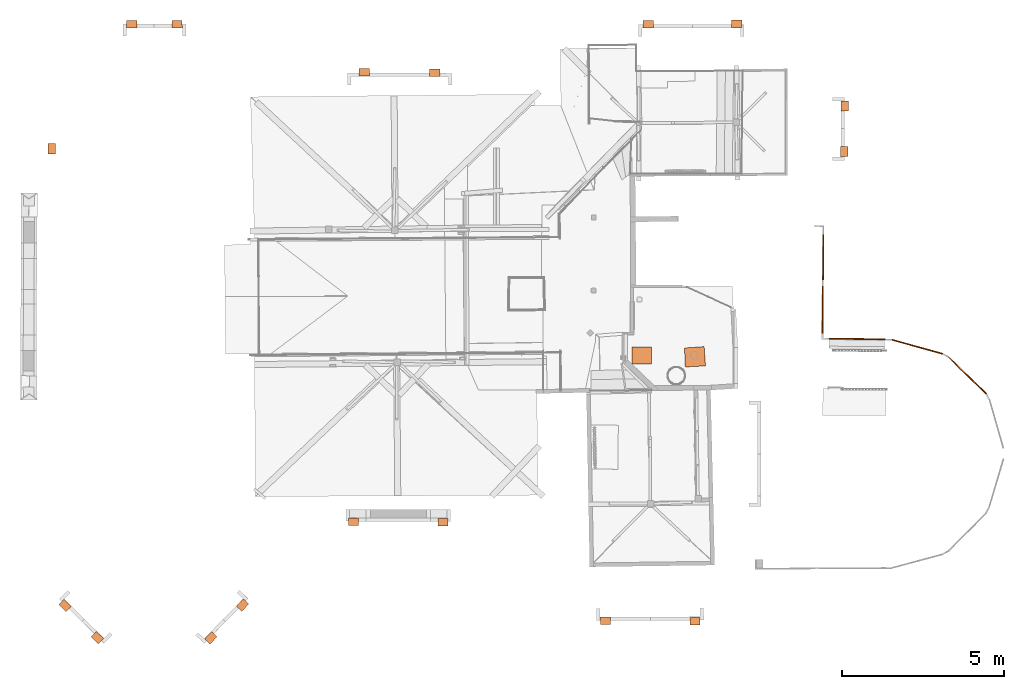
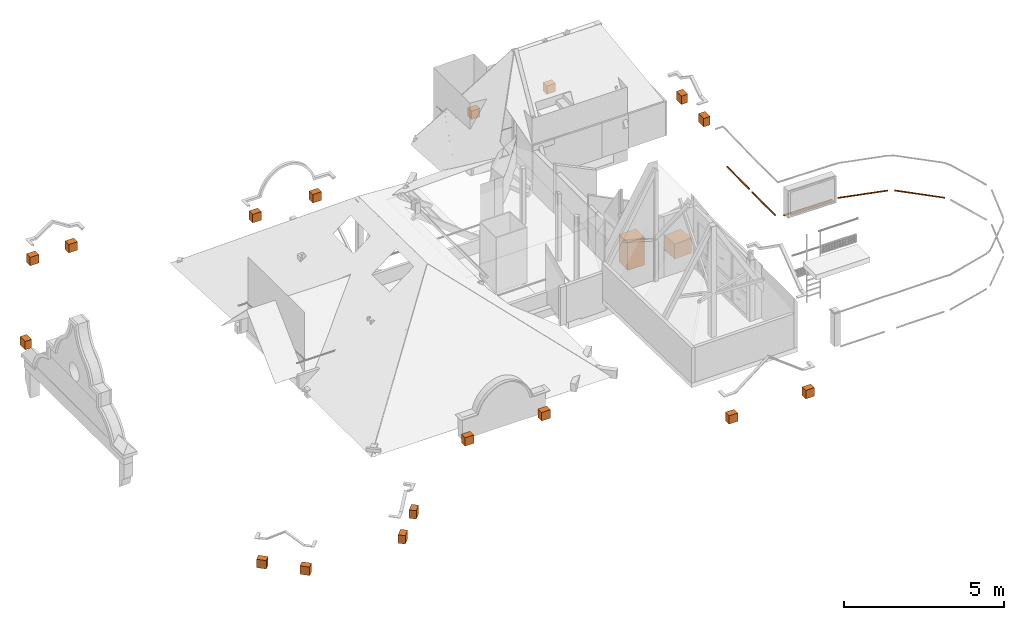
# One storey, part 32 of 39: 24 proxies.
"""IFC2X3 building model written with IfcOpenShell, lengths in centimetres."""

from ifc_helpers import new_model, entity, si_unit, converted_unit, point, direction, frame, frame_2d, origin, origin_with_axes, place, context, subcontext, project, spatial, polyline, circle_curve, trimmed, segment, composite_curve, outline, extrude, faceted_brep, source, transform, mapped, material, type_object, element, save


model = new_model("IFC2X3")

# Units and contexts
model_context = context("Model", 3, precision=0.0001, world=origin(), true_north=direction((0.225632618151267, 0.974212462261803, 0.0)))
body_context = subcontext(model_context, "Body", "Model", "MODEL_VIEW")
ifc_project = project(units=[si_unit("LENGTHUNIT", "METRE", prefix="CENTI"), si_unit("AREAUNIT", "SQUARE_METRE", prefix="CENTI"), si_unit("VOLUMEUNIT", "CUBIC_METRE", prefix="CENTI"), converted_unit("PLANEANGLEUNIT", "DEGREE", entity("IfcRatioMeasure", 0.0174532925), si_unit("PLANEANGLEUNIT", "RADIAN"), dimensions=[0, 0, 0, 0, 0, 0, 0])], contexts=[model_context])

# Site, building, storey
site_placement = place(None, origin_with_axes())
site = spatial("IfcSite", under=ifc_project, at=site_placement, Name="Default Site", CompositionType="ELEMENT")
building_placement = place(site_placement, origin_with_axes())
building = spatial("IfcBuilding", under=site, at=building_placement, Name="Default Building", CompositionType="ELEMENT")
storey_placement = place(building_placement, frame((0.0, 0.0, 1088.91037418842), z_axis=(0.0, 0.0, 1.0), x_axis=(1.0, 0.0, 0.0)))
storey = spatial("IfcBuildingStorey", under=building, at=storey_placement, Name="Mezzanine", CompositionType="ELEMENT", Elevation=1088.91037418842)

# Proxies
ifc_material_1 = material(Name="Aluminium mat")
building_element_proxy_type = type_object("IfcBuildingElementProxyType", Name="Base arrondi", PredefinedType="NOTDEFINED", material=ifc_material_1)
shared_shape = source(origin_with_axes(), body_context, "Body", "SweptSolid", [
    extrude(outline(composite_curve([segment(trimmed(circle_curve(frame_2d((-0.104143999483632, 3.46944695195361e-16), x_axis=(1.0, 0.0)), 1.99994458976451), [point((-0.0164066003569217, -1.99801914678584))], [point((-0.0164066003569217, 1.99801914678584))], True, "CARTESIAN"), True, "CONTINUOUS"), segment(polyline([(-0.0164066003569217, 1.99801914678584), (-1.53215921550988, 1.99801914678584), (-1.53215921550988, -1.99801914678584), (-0.0164066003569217, -1.99801914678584)]), True, "CONTINUOUS")], self_intersect=False)), origin_with_axes(), (0.0, 0.0, 1.0), 100.0),
])
proxy_1_placement = place(storey_placement, frame((1119.13202542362, -195.748695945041, 6.52964296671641), z_axis=(-0.999949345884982, 0.0100650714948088, -1.92592994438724e-34), x_axis=(0.0100650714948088, 0.999949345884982, 1.22464679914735e-16)))
element("IfcBuildingElementProxy", 1, at=proxy_1_placement, inside=storey, type_object=building_element_proxy_type, material=ifc_material_1, Name="Extrusion (solide) 1547946", context=body_context, shape_type="MappedRepresentation", body=[
    mapped(shared_shape, transform((1.53215921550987, 1.99801914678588, 1.77635683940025e-13), x_axis=(1.0, 0.0, -2.35858394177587e-50), y_axis=(0.0, 1.0, 4.27642353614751e-50), z_axis=(2.35858394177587e-50, -1.92592994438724e-34, -1.0), scale=1.0, scale2=1.0, scale3=1.7222477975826, uniform=False)),
])
proxy_2_placement = place(storey_placement, frame((1312.05625130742, -199.189021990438, 3.00001475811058), z_axis=(-0.963843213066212, 0.266469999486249, 0.0), x_axis=(0.266469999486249, 0.963843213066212, 1.22464679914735e-16)))
element("IfcBuildingElementProxy", 2, at=proxy_2_placement, inside=storey, type_object=building_element_proxy_type, material=ifc_material_1, Name="Extrusion (solide) 1547947", context=body_context, shape_type="MappedRepresentation", body=[
    mapped(shared_shape, transform((1.53215921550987, -1.9980191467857, 1.77635683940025e-13), x_axis=(1.0, 2.46519032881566e-32, 7.54746861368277e-49), y_axis=(2.46519032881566e-32, 1.0, -6.16297582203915e-33), z_axis=(-3.45699800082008e-17, 6.16297582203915e-33, -1.0), scale=1.0, scale2=1.0, scale3=1.60576173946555, uniform=False)),
])
proxy_3_placement = place(storey_placement, frame((1484.4555776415, -251.798666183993, 2.99998805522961), z_axis=(-0.717188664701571, 0.696879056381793, 1.23259516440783e-32), x_axis=(0.696879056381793, 0.717188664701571, 1.22464679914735e-16)))
element("IfcBuildingElementProxy", 3, at=proxy_3_placement, inside=storey, type_object=building_element_proxy_type, material=ifc_material_1, Name="Extrusion (solide) 1547949", context=body_context, shape_type="MappedRepresentation", body=[
    mapped(shared_shape, transform((1.53215921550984, -1.9980191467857, 1.77635683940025e-13), x_axis=(1.0, 0.0, 1.50949372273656e-48), y_axis=(0.0, 1.0, 0.0), z_axis=(-1.50949372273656e-48, -2.92043630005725e-33, -1.0), scale=1.0, scale2=1.0, scale3=1.61690122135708, uniform=False)),
])
proxy_4_placement = place(storey_placement, frame((1098.58660513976, 125.773069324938, 1.47581108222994e-05), z_axis=(0.00500904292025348, 0.999987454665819, 0.0), x_axis=(0.999987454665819, -0.00500904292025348, 1.22464679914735e-16)))
element("IfcBuildingElementProxy", 4, at=proxy_4_placement, inside=storey, type_object=building_element_proxy_type, material=ifc_material_1, Name="Extrusion (solide) 1547957", context=body_context, shape_type="MappedRepresentation", body=[
    mapped(shared_shape, transform((1.53215921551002, -1.9980191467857, 0.0), x_axis=(1.0, 0.0, -1.17929197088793e-50), y_axis=(0.0, 1.0, 9.62964972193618e-35), z_axis=(6.2786418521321e-19, 4.31173577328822e-35, -1.0), scale=1.0, scale2=1.0, scale3=1.3814480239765, uniform=False)),
])
proxy_5_placement = place(storey_placement, frame((1096.94652098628, -32.6258915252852, 1.47581102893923e-05), z_axis=(0.00501251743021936, 0.999987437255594, 0.0), x_axis=(0.999987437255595, -0.00501251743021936, 1.22464679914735e-16)))
element("IfcBuildingElementProxy", 5, at=proxy_5_placement, inside=storey, type_object=building_element_proxy_type, material=ifc_material_1, Name="Extrusion (solide) 1547956", context=body_context, shape_type="MappedRepresentation", body=[
    mapped(shared_shape, transform((1.53215921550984, -1.99801914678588, 0.0), x_axis=(1.0, 2.46519032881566e-32, 0.0), y_axis=(2.46519032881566e-32, 1.0, 0.0), z_axis=(-6.01753826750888e-19, 0.0, -1.0), scale=1.0, scale2=1.0, scale3=1.44138965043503, uniform=False)),
])
ifc_material_2 = material(Name="Pierre de sarnico")
proxy_6_placement = place(storey_placement, frame((1154.15772545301, 537.45957814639, -10.9999999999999), z_axis=(0.0, 0.0, 1.0), x_axis=(1.0, 0.0, 0.0)))
element("IfcBuildingElementProxy", 6, at=proxy_6_placement, inside=storey, material=ifc_material_2, Name="Encombrement 1005747", context=body_context, shape_type="Brep", body=[
    faceted_brep([(8.46422238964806e-06, -1.39374052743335e-05, 32.0000185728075), (8.46422238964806e-06, -31.5282484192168, 32.0000185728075), (23.1091583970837, -31.3775201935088, 32.0000185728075), (23.1091583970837, -1.39374052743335e-05, 32.0000185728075), (8.46422238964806e-06, -1.39374052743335e-05, -4.62770460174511e-05), (8.46422238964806e-06, -31.5282484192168, -4.62770460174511e-05), (23.1091583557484, -31.3775138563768, -4.62770460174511e-05), (23.1091583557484, -31.3775138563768, 32.0000185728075), (23.1091583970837, -31.3775201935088, -4.62770460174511e-05), (23.1091583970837, -1.39374052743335e-05, -4.62770460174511e-05)], [[[0, 1, 2, 3]], [[4, 5, 1, 0]], [[5, 6, 7, 1]], [[8, 9, 3, 2]], [[9, 4, 0, 3]], [[9, 8, 5, 4]]]),
])
proxy_7_placement = place(storey_placement, frame((1153.77641941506, 397.39898410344, -10.9999999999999), z_axis=(0.0, 0.0, 1.0), x_axis=(1.0, 0.0, 0.0)))
element("IfcBuildingElementProxy", 7, at=proxy_7_placement, inside=storey, material=ifc_material_2, Name="Encombrement 1005746", context=body_context, shape_type="Brep", body=[
    faceted_brep([(3.55104816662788e-05, -1.15921480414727e-05, 32.0000185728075), (3.55104816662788e-05, -31.5282460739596, 32.0000185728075), (23.1090900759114, -31.3775178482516, 32.0000185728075), (23.1090900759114, -1.15921480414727e-05, 32.0000185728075), (3.55104816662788e-05, -1.15921480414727e-05, -4.62770460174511e-05), (3.55104816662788e-05, -31.5282460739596, -4.62770460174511e-05), (23.1090900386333, -31.3775121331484, -4.62770460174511e-05), (23.1090900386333, -31.3775121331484, 32.0000185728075), (23.1090900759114, -31.3775178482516, -4.62770460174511e-05), (23.1090900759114, -1.15921480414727e-05, -4.62770460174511e-05)], [[[0, 1, 2, 3]], [[4, 5, 1, 0]], [[5, 6, 7, 1]], [[8, 9, 3, 2]], [[9, 4, 0, 3]], [[9, 8, 5, 4]]]),
])
proxy_8_placement = place(storey_placement, frame((-1043.6949642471, 762.424911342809, -10.9999999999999), z_axis=(0.0, 0.0, 1.0), x_axis=(1.0, 0.0, 0.0)))
element("IfcBuildingElementProxy", 8, at=proxy_8_placement, inside=storey, material=ifc_material_2, Name="Encombrement 1005743", context=body_context, shape_type="Brep", body=[
    faceted_brep([(-8.74484715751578e-06, -1.31952260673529e-05, 32.0000185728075), (31.5282734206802, -1.31952260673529e-05, 32.0000185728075), (31.3774975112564, 23.1091367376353, 32.0000185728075), (-8.74484715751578e-06, 23.1091367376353, 32.0000185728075), (-8.74484715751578e-06, -1.31952260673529e-05, -4.62770460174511e-05), (31.5282734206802, -1.31952271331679e-05, -4.62770460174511e-05), (31.5282734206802, -1.31952271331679e-05, 32.0000185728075), (31.5282734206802, -1.31952260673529e-05, -4.62770460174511e-05), (31.3775388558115, 23.1091370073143, -4.62770460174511e-05), (31.3775388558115, 23.1091370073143, 32.0000185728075), (31.3774975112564, 23.1091367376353, -4.62770460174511e-05), (-8.74484715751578e-06, 23.1091367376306, -4.62770460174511e-05), (-8.74484715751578e-06, 23.1091367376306, 32.0000185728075), (-8.74484715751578e-06, 23.1091367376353, -4.62770460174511e-05), (-8.74484680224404e-06, -1.31952260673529e-05, -4.62770460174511e-05), (-8.74484680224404e-06, -1.31952260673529e-05, 32.0000185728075)], [[[0, 1, 2, 3]], [[4, 5, 6, 0]], [[7, 8, 9, 1]], [[10, 11, 12, 2]], [[13, 14, 15, 3]], [[13, 10, 7, 4]]]),
])
proxy_9_placement = place(storey_placement, frame((-781.739321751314, -1095.30805558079, -10.9999999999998), z_axis=(0.0, 0.0, 1.0), x_axis=(1.0, 0.0, 0.0)))
element("IfcBuildingElementProxy", 9, at=proxy_9_placement, inside=storey, material=ifc_material_2, Name="Encombrement 1014000", context=body_context, shape_type="Brep", body=[
    faceted_brep([(-8.54043378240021e-06, 3.78500732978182e-05, 32.0000185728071), (-21.8849267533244, -22.695408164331, 32.0000185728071), (-5.14527221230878, -38.6277773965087, 32.0000185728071), (16.6349802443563, -16.0408595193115, 32.0000185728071), (-8.54043378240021e-06, 3.78500732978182e-05, -4.62770463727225e-05), (-21.8849151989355, -22.6954193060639, -4.62770463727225e-05), (-21.8849151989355, -22.6954193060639, 32.0000185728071), (-21.8849267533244, -22.695408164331, -4.62770463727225e-05), (-5.14529320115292, -38.6277994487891, -4.62770463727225e-05), (-5.14529320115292, -38.6277994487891, 32.0000185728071), (-5.14527221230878, -38.6277773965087, -4.62770463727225e-05), (16.6349757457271, -16.0408551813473, -4.62770463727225e-05), (16.6349757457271, -16.0408551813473, 32.0000185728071), (16.6349802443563, -16.0408595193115, -4.62770463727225e-05), (-1.56334739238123e-05, 3.04943284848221e-05, -4.62770463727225e-05), (-1.56334739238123e-05, 3.04943284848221e-05, 32.0000185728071)], [[[0, 1, 2, 3]], [[4, 5, 6, 0]], [[7, 8, 9, 1]], [[10, 11, 12, 2]], [[13, 14, 15, 3]], [[13, 10, 7, 4]]]),
])
proxy_10_placement = place(storey_placement, frame((-1114.55714171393, -1116.60968171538, -11.0000000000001), z_axis=(0.0, 0.0, 1.0), x_axis=(1.0, 0.0, 0.0)))
element("IfcBuildingElementProxy", 10, at=proxy_10_placement, inside=storey, material=ifc_material_2, Name="Encombrement 1012990", context=body_context, shape_type="Brep", body=[
    faceted_brep([(-2.91539938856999e-05, 1.29836861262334e-05, 32.0000185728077), (-22.4419885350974, 22.1447120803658, 32.0000185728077), (-38.5660463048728, 5.58968888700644, 32.0000185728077), (-16.2312799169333, -16.4491523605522, 32.0000185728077), (-2.91539938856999e-05, 1.29836861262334e-05, -4.62770458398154e-05), (-22.4419875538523, 22.1447130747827, -4.62770458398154e-05), (-22.4419875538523, 22.1447130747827, 32.0000185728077), (-22.4419885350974, 22.1447120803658, -4.62770458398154e-05), (-38.5660052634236, 5.58964891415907, -4.62770458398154e-05), (-38.5660052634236, 5.58964891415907, 32.0000185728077), (-38.5660463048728, 5.58968888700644, -4.62770458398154e-05), (-16.2313232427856, -16.4491962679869, -4.62770458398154e-05), (-16.2313232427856, -16.4491962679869, 32.0000185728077), (-16.2312799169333, -16.4491523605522, -4.62770458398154e-05), (-1.15690138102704e-05, -4.36836947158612e-06, -4.62770458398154e-05), (-1.15690138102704e-05, -4.36836947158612e-06, 32.0000185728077)], [[[0, 1, 2, 3]], [[4, 5, 6, 0]], [[7, 8, 9, 1]], [[10, 11, 12, 2]], [[13, 14, 15, 3]], [[13, 10, 7, 4]]]),
])
proxy_11_placement = place(storey_placement, frame((-1213.98518364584, -1017.96293886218, -11.0000000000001), z_axis=(0.0, 0.0, 1.0), x_axis=(1.0, 0.0, 0.0)))
element("IfcBuildingElementProxy", 11, at=proxy_11_placement, inside=storey, material=ifc_material_2, Name="Encombrement 1012989", context=body_context, shape_type="Brep", body=[
    faceted_brep([(2.6632898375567e-05, 6.27550900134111e-06, 32.0000185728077), (-22.4419327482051, 22.1447053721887, 32.0000185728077), (-38.5659905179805, 5.58968217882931, 32.0000185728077), (-16.2313194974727, -16.4491590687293, 32.0000185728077), (2.6632898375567e-05, 6.27550900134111e-06, -4.62770458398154e-05), (-22.44193176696, 22.1447063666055, -4.62770458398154e-05), (-22.44193176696, 22.1447063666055, 32.0000185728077), (-22.4419327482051, 22.1447053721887, -4.62770458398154e-05), (-38.5659494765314, 5.58964220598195, -4.62770458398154e-05), (-38.5659494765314, 5.58964220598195, 32.0000185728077), (-38.5659905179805, 5.58968217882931, -4.62770458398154e-05), (-16.2313157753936, -16.449155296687, -4.62770458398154e-05), (-16.2313157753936, -16.449155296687, 32.0000185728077), (-16.2313194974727, -16.4491590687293, -4.62770458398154e-05), (-4.10162175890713e-06, 3.66029304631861e-05, -4.62770458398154e-05), (-4.10162175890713e-06, 3.66029304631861e-05, 32.0000185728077)], [[[0, 1, 2, 3]], [[4, 5, 6, 0]], [[7, 8, 9, 1]], [[10, 11, 12, 2]], [[13, 14, 15, 3]], [[13, 10, 7, 4]]]),
])
proxy_12_placement = place(storey_placement, frame((-903.826113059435, 762.846223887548, -10.9999999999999), z_axis=(0.0, 0.0, 1.0), x_axis=(1.0, 0.0, 0.0)))
element("IfcBuildingElementProxy", 12, at=proxy_12_placement, inside=storey, material=ifc_material_2, Name="Encombrement 1005742", context=body_context, shape_type="Brep", body=[
    faceted_brep([(-2.82979865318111e-05, 7.57302291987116e-06, 32.0000185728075), (31.5282538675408, 7.57302291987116e-06, 32.0000185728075), (31.377477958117, 23.1091098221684, 32.0000185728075), (-2.82979865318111e-05, 23.1091098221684, 32.0000185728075), (-2.82979865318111e-05, 7.57302291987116e-06, -4.62770460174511e-05), (31.5282538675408, 7.57302185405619e-06, -4.62770460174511e-05), (31.5282538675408, 7.57302185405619e-06, 32.0000185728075), (31.5282538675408, 7.57302291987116e-06, -4.62770460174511e-05), (31.3775196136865, 23.1091100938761, -4.62770460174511e-05), (31.3775196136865, 23.1091100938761, 32.0000185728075), (31.377477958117, 23.1091098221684, -4.62770460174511e-05), (-2.82979865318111e-05, 23.1091098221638, -4.62770460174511e-05), (-2.82979865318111e-05, 23.1091098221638, 32.0000185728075), (-2.82979865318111e-05, 23.1091098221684, -4.62770460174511e-05), (-2.82979861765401e-05, 7.57302291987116e-06, -4.62770460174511e-05), (-2.82979861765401e-05, 7.57302291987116e-06, 32.0000185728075)], [[[0, 1, 2, 3]], [[4, 5, 6, 0]], [[7, 8, 9, 1]], [[10, 11, 12, 2]], [[13, 14, 15, 3]], [[13, 10, 7, 4]]]),
])
proxy_13_placement = place(storey_placement, frame((-1286.01682688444, 405.941995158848, -10.9999999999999), z_axis=(0.0, 0.0, 1.0), x_axis=(1.0, 0.0, 0.0)))
element("IfcBuildingElementProxy", 13, at=proxy_13_placement, inside=storey, material=ifc_material_2, Name="Encombrement 1002954", context=body_context, shape_type="Brep", body=[
    faceted_brep([(-1.88186829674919e-05, 1.57206685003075e-05, 32.0000185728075), (-1.88186829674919e-05, -31.5282664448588, 32.0000185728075), (23.1091311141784, -31.3775143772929, 32.0000185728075), (23.1091311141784, 1.57206685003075e-05, 32.0000185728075), (-1.88186829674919e-05, 1.57206685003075e-05, -4.62770460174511e-05), (-1.88186829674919e-05, -31.5282664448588, -4.62770460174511e-05), (23.1091312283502, -31.3775318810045, -4.62770460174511e-05), (23.1091312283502, -31.3775318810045, 32.0000185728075), (23.1091311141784, -31.3775143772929, -4.62770460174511e-05), (23.1091311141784, 1.57206685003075e-05, -4.62770460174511e-05)], [[[0, 1, 2, 3]], [[4, 5, 1, 0]], [[5, 6, 7, 1]], [[8, 9, 3, 2]], [[9, 4, 0, 3]], [[9, 8, 5, 4]]]),
])
proxy_14_placement = place(storey_placement, frame((-111.138556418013, 613.460423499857, -8.00000000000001), z_axis=(0.0, 0.0, 1.0), x_axis=(1.0, 0.0, 0.0)))
element("IfcBuildingElementProxy", 14, at=proxy_14_placement, inside=storey, material=ifc_material_2, Name="Encombrement 1149555", context=body_context, shape_type="Brep", body=[
    faceted_brep([(-1.96974294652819e-06, 2.19041958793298e-05, 31.9999918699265), (31.5282563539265, 2.19041958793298e-05, 31.9999918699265), (31.377522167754, 23.1091241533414, 31.9999918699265), (-1.96974294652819e-06, 23.1091241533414, 31.9999918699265), (-1.96974294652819e-06, 2.19041958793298e-05, 2.23875046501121e-05), (31.5282563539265, 2.19041958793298e-05, 2.23875046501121e-05), (31.3775221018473, 23.1091241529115, 2.23875046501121e-05), (31.3775221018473, 23.1091241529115, 31.9999918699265), (31.377522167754, 23.1091241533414, 2.23875046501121e-05), (-1.96974294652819e-06, 23.1091241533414, 2.23875046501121e-05), (-1.96974241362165e-06, 2.19041958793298e-05, 2.23875046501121e-05), (-1.96974241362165e-06, 2.19041958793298e-05, 31.9999918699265)], [[[0, 1, 2, 3]], [[4, 5, 1, 0]], [[5, 6, 7, 1]], [[8, 9, 3, 2]], [[9, 10, 11, 3]], [[9, 8, 5, 4]]]),
])
proxy_15_placement = place(storey_placement, frame((-327.668765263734, 613.84174889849, -8.00000000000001), z_axis=(0.0, 0.0, 1.0), x_axis=(1.0, 0.0, 0.0)))
element("IfcBuildingElementProxy", 15, at=proxy_15_placement, inside=storey, material=ifc_material_2, Name="Encombrement 1149554", context=body_context, shape_type="Brep", body=[
    faceted_brep([(3.0567022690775e-06, 2.31809774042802e-05, 31.9999918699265), (31.5282613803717, 2.31809774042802e-05, 31.9999918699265), (31.3775331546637, 23.1091254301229, 31.9999918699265), (3.0567022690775e-06, 23.1091254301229, 31.9999918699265), (3.0567022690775e-06, 2.31809774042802e-05, 2.23875046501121e-05), (31.5282613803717, 2.31809774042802e-05, 2.23875046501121e-05), (31.3775271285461, 23.1091253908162, 2.23875046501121e-05), (31.3775271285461, 23.1091253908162, 31.9999918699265), (31.3775331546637, 23.1091254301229, 2.23875046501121e-05), (3.0567022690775e-06, 23.1091254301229, 2.23875046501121e-05)], [[[0, 1, 2, 3]], [[4, 5, 1, 0]], [[5, 6, 7, 1]], [[8, 9, 3, 2]], [[9, 4, 0, 3]], [[9, 8, 5, 4]]]),
])
proxy_16_placement = place(storey_placement, frame((546.096410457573, 762.436776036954, -10.9999999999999), z_axis=(0.0, 0.0, 1.0), x_axis=(1.0, 0.0, 0.0)))
element("IfcBuildingElementProxy", 16, at=proxy_16_placement, inside=storey, material=ifc_material_2, Name="Encombrement 1018900", context=body_context, shape_type="Brep", body=[
    faceted_brep([(9.83051302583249e-06, -4.64413130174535e-06, 32.0000185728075), (31.5282443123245, -4.64413130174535e-06, 32.0000185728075), (31.3775160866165, 23.10914528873, 32.0000185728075), (9.83051302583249e-06, 23.10914528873, 32.0000185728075), (9.83051302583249e-06, -4.64413130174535e-06, -4.62770460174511e-05), (31.5282443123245, -4.64413236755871e-06, -4.62770460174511e-05), (31.5282443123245, -4.64413236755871e-06, 32.0000185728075), (31.5282443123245, -4.64413130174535e-06, -4.62770460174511e-05), (31.3775097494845, 23.1091452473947, -4.62770460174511e-05), (31.3775097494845, 23.1091452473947, 32.0000185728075), (31.3775160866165, 23.10914528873, -4.62770460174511e-05), (9.83051302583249e-06, 23.1091452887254, -4.62770460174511e-05), (9.83051302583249e-06, 23.1091452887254, 32.0000185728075), (9.83051302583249e-06, 23.10914528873, -4.62770460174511e-05), (9.83052750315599e-06, -4.64413130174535e-06, -4.62770460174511e-05), (9.83052750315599e-06, -4.64413130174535e-06, 32.0000185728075)], [[[0, 1, 2, 3]], [[4, 5, 6, 0]], [[7, 8, 9, 1]], [[10, 11, 12, 2]], [[13, 14, 15, 3]], [[13, 10, 7, 4]]]),
])
proxy_17_placement = place(storey_placement, frame((721.666648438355, -1051.35241644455, -10.9999999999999), z_axis=(0.0, 0.0, 1.0), x_axis=(1.0, 0.0, 0.0)))
element("IfcBuildingElementProxy", 17, at=proxy_17_placement, inside=storey, material=ifc_material_2, Name="Encombrement 1015089", context=body_context, shape_type="Brep", body=[
    faceted_brep([(2.14072260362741e-05, 1.0896452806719e-05, 32.0000185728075), (-31.5282607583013, 1.0896452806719e-05, 32.0000185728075), (-31.3775325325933, -23.1091390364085, 32.0000185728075), (2.14072260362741e-05, -23.1091390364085, 32.0000185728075), (2.14072260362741e-05, 1.0896452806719e-05, -4.62770460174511e-05), (-31.5282607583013, 1.0896452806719e-05, -4.62770460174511e-05), (-31.3775261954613, -23.1091389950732, -4.62770460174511e-05), (-31.3775261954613, -23.1091389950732, 32.0000185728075), (-31.3775325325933, -23.1091390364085, -4.62770460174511e-05), (2.14072260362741e-05, -23.1091390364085, -4.62770460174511e-05)], [[[0, 1, 2, 3]], [[4, 5, 1, 0]], [[5, 6, 7, 1]], [[8, 9, 3, 2]], [[9, 4, 0, 3]], [[9, 8, 5, 4]]]),
])
proxy_18_placement = place(storey_placement, frame((445.482289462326, -1050.97109104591, -10.9999999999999), z_axis=(0.0, 0.0, 1.0), x_axis=(1.0, 0.0, 0.0)))
element("IfcBuildingElementProxy", 18, at=proxy_18_placement, inside=storey, material=ifc_material_2, Name="Encombrement 1015088", context=body_context, shape_type="Brep", body=[
    faceted_brep([(1.22497102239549e-05, -3.55104816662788e-05, 32.0000185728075), (-31.5282699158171, -3.55104816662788e-05, 32.0000185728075), (-31.3775416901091, -23.1090900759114, 32.0000185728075), (1.22497102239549e-05, -23.1090900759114, 32.0000185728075), (1.22497102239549e-05, -3.55104816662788e-05, -4.62770460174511e-05), (-31.5282699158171, -3.55104816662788e-05, -4.62770460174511e-05), (-31.3775359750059, -23.1090900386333, -4.62770460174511e-05), (-31.3775359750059, -23.1090900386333, 32.0000185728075), (-31.3775416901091, -23.1090900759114, -4.62770460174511e-05), (1.22497102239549e-05, -23.1090900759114, -4.62770460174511e-05)], [[[0, 1, 2, 3]], [[4, 5, 1, 0]], [[5, 6, 7, 1]], [[8, 9, 3, 2]], [[9, 4, 0, 3]], [[9, 8, 5, 4]]]),
])
proxy_19_placement = place(storey_placement, frame((-684.243799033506, -994.750915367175, -10.9999999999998), z_axis=(0.0, 0.0, 1.0), x_axis=(1.0, 0.0, 0.0)))
element("IfcBuildingElementProxy", 19, at=proxy_19_placement, inside=storey, material=ifc_material_2, Name="Encombrement 1014001", context=body_context, shape_type="Brep", body=[
    faceted_brep([(-2.30642720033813e-05, 3.41721067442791e-05, 32.0000185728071), (-21.8848935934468, -22.6954118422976, 32.0000185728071), (-5.145286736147, -38.6277810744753, 32.0000185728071), (16.634965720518, -16.040863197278, 32.0000185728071), (-2.30642720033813e-05, 3.41721067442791e-05, -4.62770463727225e-05), (-21.8849067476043, -22.6953991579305, -4.62770463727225e-05), (-21.8849067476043, -22.6953991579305, 32.0000185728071), (-21.8848935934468, -22.6954118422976, -4.62770463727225e-05), (-5.14528506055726, -38.6277793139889, -4.62770463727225e-05), (-5.14528506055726, -38.6277793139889, 32.0000185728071), (-5.145286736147, -38.6277810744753, -4.62770463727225e-05), (16.6349612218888, -16.0408588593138, -4.62770463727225e-05), (16.6349612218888, -16.0408588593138, 32.0000185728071), (16.634965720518, -16.040863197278, -4.62770463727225e-05), (-3.01573121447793e-05, 2.68163619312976e-05, -4.62770463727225e-05), (-3.01573121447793e-05, 2.68163619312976e-05, 32.0000185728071)], [[[0, 1, 2, 3]], [[4, 5, 6, 0]], [[7, 8, 9, 1]], [[10, 11, 12, 2]], [[13, 14, 15, 3]], [[13, 10, 7, 4]]]),
])
proxy_20_placement = place(storey_placement, frame((818.640158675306, 763.63407367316, -10.9999999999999), z_axis=(0.0, 0.0, 1.0), x_axis=(1.0, 0.0, 0.0)))
element("IfcBuildingElementProxy", 20, at=proxy_20_placement, inside=storey, material=ifc_material_2, Name="Encombrement 1018899", context=body_context, shape_type="Brep", body=[
    faceted_brep([(-2.19565556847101e-05, -1.1859805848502e-05, 32.0000185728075), (31.5282602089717, -1.1859805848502e-05, 32.0000185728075), (31.3774842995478, 23.1091380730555, 32.0000185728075), (-2.19565556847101e-05, 23.1091380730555, 32.0000185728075), (-2.19565556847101e-05, -1.1859805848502e-05, -4.62770460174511e-05), (31.5282602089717, -1.1859806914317e-05, -4.62770460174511e-05), (31.5282602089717, -1.1859806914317e-05, 32.0000185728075), (31.5282602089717, -1.1859805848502e-05, -4.62770460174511e-05), (31.377525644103, 23.1091383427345, -4.62770460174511e-05), (31.377525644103, 23.1091383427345, 32.0000185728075), (31.3774842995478, 23.1091380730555, -4.62770460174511e-05), (-2.19565556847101e-05, 23.1091380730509, -4.62770460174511e-05), (-2.19565556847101e-05, 23.1091380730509, 32.0000185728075), (-2.19565556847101e-05, 23.1091380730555, -4.62770460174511e-05), (-2.19565523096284e-05, -1.1859805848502e-05, -4.62770460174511e-05), (-2.19565523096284e-05, -1.1859805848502e-05, 32.0000185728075)], [[[0, 1, 2, 3]], [[4, 5, 6, 0]], [[7, 8, 9, 1]], [[10, 11, 12, 2]], [[13, 14, 15, 3]], [[13, 10, 7, 4]]]),
])
proxy_21_placement = place(storey_placement, frame((-329.882560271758, -746.358950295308, -8.00000000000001), z_axis=(0.0, 0.0, 1.0), x_axis=(1.0, 0.0, 0.0)))
element("IfcBuildingElementProxy", 21, at=proxy_21_placement, inside=storey, material=ifc_material_2, Name="Encombrement 1015990", context=body_context, shape_type="Brep", body=[
    faceted_brep([(1.00321950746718e-05, -1.65320845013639e-05, 31.9999918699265), (-31.5282482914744, -1.65320845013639e-05, 31.9999918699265), (-31.3775200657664, -23.10911878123, 31.9999918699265), (1.00321950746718e-05, -23.10911878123, 31.9999918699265), (1.00321950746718e-05, -1.65320845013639e-05, 2.23875046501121e-05), (-31.5282482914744, -1.65320845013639e-05, 2.23875046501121e-05), (-31.3775140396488, -23.1091187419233, 2.23875046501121e-05), (-31.3775140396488, -23.1091187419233, 31.9999918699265), (-31.3775200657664, -23.10911878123, 2.23875046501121e-05), (1.00321950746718e-05, -23.10911878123, 2.23875046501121e-05)], [[[0, 1, 2, 3]], [[4, 5, 1, 0]], [[5, 6, 7, 1]], [[8, 9, 3, 2]], [[9, 4, 0, 3]], [[9, 8, 5, 4]]]),
])
proxy_22_placement = place(storey_placement, frame((-54.473072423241, -746.740275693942, -8.00000000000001), z_axis=(0.0, 0.0, 1.0), x_axis=(1.0, 0.0, 0.0)))
element("IfcBuildingElementProxy", 22, at=proxy_22_placement, inside=storey, material=ifc_material_2, Name="Encombrement 1015989", context=body_context, shape_type="Brep", body=[
    faceted_brep([(1.32820421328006e-07, -1.78088658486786e-05, 31.9999918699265), (-31.528258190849, -1.78088658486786e-05, 31.9999918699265), (-31.3775240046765, -23.1091200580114, 31.9999918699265), (1.32820421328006e-07, -23.1091200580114, 31.9999918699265), (1.32820421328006e-07, -1.78088658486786e-05, 2.23875046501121e-05), (-31.528258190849, -1.78088658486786e-05, 2.23875046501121e-05), (-31.3775239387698, -23.1091200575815, 2.23875046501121e-05), (-31.3775239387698, -23.1091200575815, 31.9999918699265), (-31.3775240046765, -23.1091200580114, 2.23875046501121e-05), (1.32820421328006e-07, -23.1091200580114, 2.23875046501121e-05)], [[[0, 1, 2, 3]], [[4, 5, 1, 0]], [[5, 6, 7, 1]], [[8, 9, 3, 2]], [[9, 4, 0, 3]], [[9, 8, 5, 4]]]),
])
proxy_23_placement = place(storey_placement, frame((675.683511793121, -281.115829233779, 44.9999999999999), z_axis=(0.0, 0.0, 1.0), x_axis=(1.0, 0.0, 0.0)))
element("IfcBuildingElementProxy", 23, at=proxy_23_placement, inside=storey, material=ifc_material_1, Name="Encombrement 197579", context=body_context, shape_type="Brep", body=[
    faceted_brep([(-1.34105524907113e-05, 1.12100978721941e-05, 56.8004565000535), (62.1429786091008, 3.45429110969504, 56.8004565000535), (58.1119403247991, 62.7208821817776, 56.8004565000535), (-2.35673338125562, 58.6177938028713, 56.8004565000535), (-1.34105524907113e-05, 1.12100978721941e-05, -4.31537614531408e-06), (62.1429773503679, 3.45431375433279, -4.31537614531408e-06), (62.1429773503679, 3.45431375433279, 56.8004565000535), (62.1429786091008, 3.45429110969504, -4.31537614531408e-06), (58.1119408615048, 62.7208822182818, -4.31537614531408e-06), (58.1119408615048, 62.7208822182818, 56.8004565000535), (58.1119403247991, 62.7208821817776, -4.31537614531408e-06), (-2.35673451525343, 58.617810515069, -4.31537614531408e-06), (-2.35673451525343, 58.617810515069, 56.8004565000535), (-2.35673338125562, 58.6177938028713, -4.31537614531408e-06), (-1.71329747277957e-05, 1.10604386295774e-05, -4.31537614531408e-06), (-1.71329747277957e-05, 1.10604386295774e-05, 56.8004565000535)], [[[0, 1, 2, 3]], [[4, 5, 6, 0]], [[7, 8, 9, 1]], [[10, 11, 12, 2]], [[13, 14, 15, 3]], [[13, 10, 7, 4]]]),
])
proxy_24_placement = place(storey_placement, frame((511.696331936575, -271.829733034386, 54.0000000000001), z_axis=(0.0, 0.0, 1.0), x_axis=(1.0, 0.0, 0.0)))
element("IfcBuildingElementProxy", 24, at=proxy_24_placement, inside=storey, material=ifc_material_1, Name="Encombrement 197578", context=body_context, shape_type="Brep", body=[
    faceted_brep([(6.71698954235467e-06, 8.72255778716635e-06, 106.302653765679), (59.7505636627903, -0.702682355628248, 106.302653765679), (59.9031515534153, 52.3365107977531, 106.302653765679), (-0.0871591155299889, 52.0554868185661, 106.302653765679), (6.71698954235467e-06, 8.72255778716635e-06, 1.09434129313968e-05), (59.7505637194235, -0.702677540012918, 1.09434129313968e-05), (59.7505637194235, -0.702677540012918, 106.302653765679), (59.7505636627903, -0.702682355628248, 1.09434129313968e-05), (59.9031843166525, 52.3365107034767, 1.09434129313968e-05), (59.9031843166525, 52.3365107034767, 106.302653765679), (59.9031515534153, 52.3365107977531, 1.09434129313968e-05), (-0.0871590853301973, 52.0554803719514, 1.09434129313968e-05), (-0.0871590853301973, 52.0554803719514, 106.302653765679), (-0.0871591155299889, 52.0554868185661, 1.09434129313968e-05), (1.60551206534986e-05, 8.73819597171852e-06, 1.09434129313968e-05), (1.60551206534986e-05, 8.73819597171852e-06, 106.302653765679)], [[[0, 1, 2, 3]], [[4, 5, 6, 0]], [[7, 8, 9, 1]], [[10, 11, 12, 2]], [[13, 14, 15, 3]], [[13, 10, 7, 4]]]),
])

save(model, "model.ifc")
